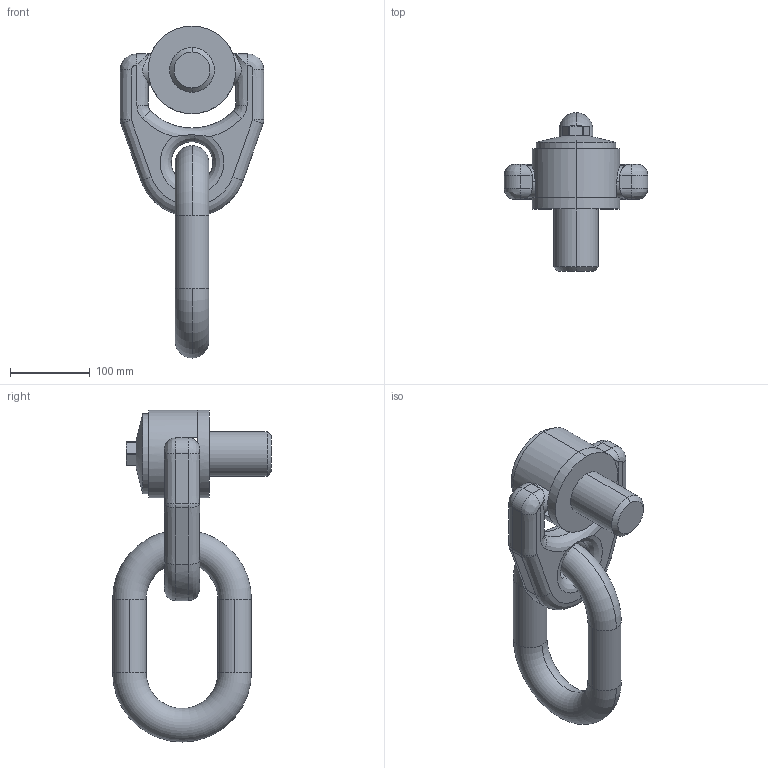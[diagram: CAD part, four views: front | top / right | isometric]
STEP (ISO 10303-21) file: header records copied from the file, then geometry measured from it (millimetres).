
FILE_DESCRIPTION (( 'STEP AP203' ), '1' );
FILE_NAME ('63150.W0056.step', '2013-12-13T11:54:04', ( 'User' ), ( '' ), 'SwSTEP 2.0', 'SolidWorks 2009', '' );
FILE_SCHEMA (( 'CONFIG_CONTROL_DESIGN' ));
Length unit declared in the file: millimetre
Products named in the file (4): Part3_63150.W0056; Part2E; 63150.W0056; Part1_63150.W0056
Assembly tree (3 placements, depth 2):
  63150.W0056
    Part2E
    Part3_63150.W0056
    Part1_63150.W0056
Bounding box: 180 x 199 x 416 mm (x, y, z)
Volume: 2505216.5 mm3; surface area: 229754.8 mm2
Topology: 3 solids, 3 shells, 127 faces, 310 edges, 182 vertices
Faces by surface type: plane 42, cylinder 37, bspline 30, cone 10, sphere 4, torus 4
Entity records: 7568 total; most frequent: CARTESIAN_POINT 4415, ORIENTED_EDGE 612, DIRECTION 538, EDGE_CURVE 306, AXIS2_PLACEMENT_3D 221, VERTEX_POINT 182, EDGE_LOOP 130, ADVANCED_FACE 127
